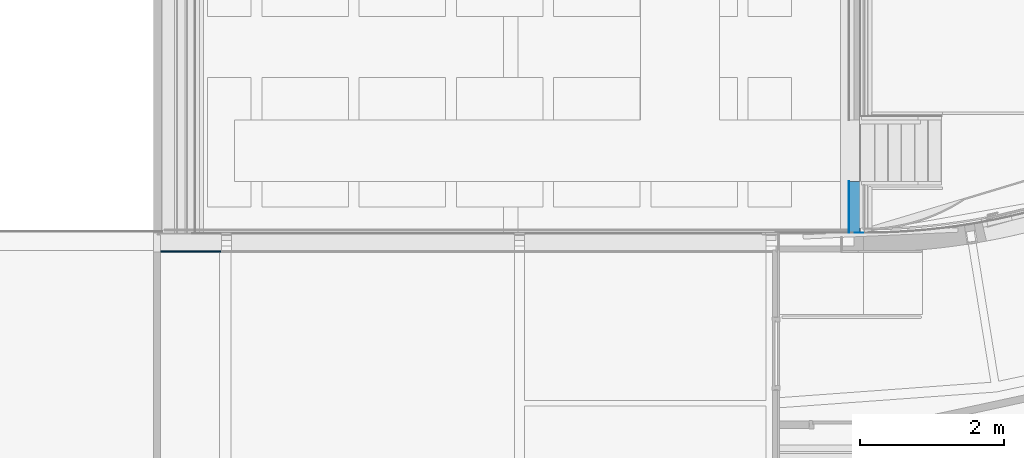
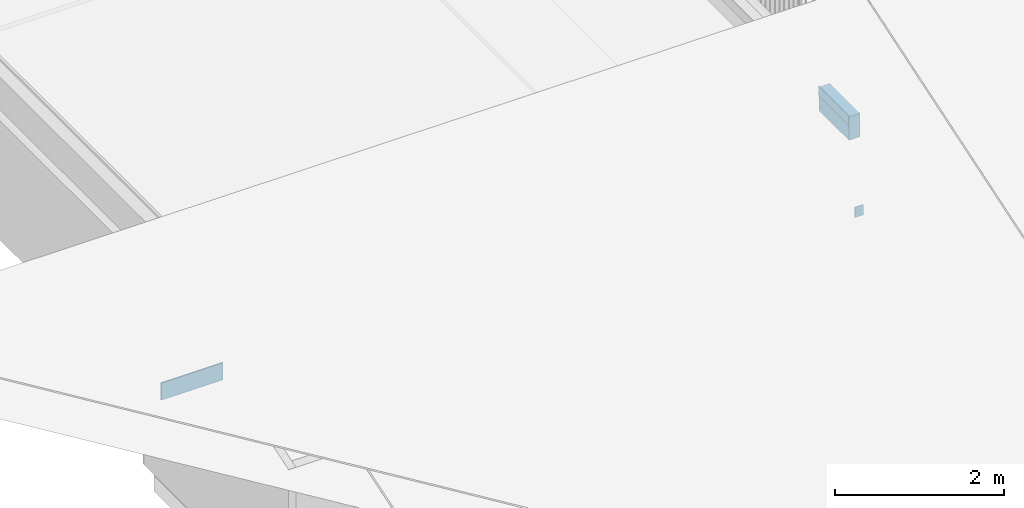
# One storey, part 40 of 66: 4 walls.
"""IFC2X3 building model written with IfcOpenShell, lengths in millimetres."""

from ifc_helpers import new_model, entity, si_unit, converted_unit, derived_unit, direction, frame, frame_2d, origin, place, context, subcontext, project, spatial, rectangle, extrude, material, layer, layer_set, layer_usage, type_object, element, save


model = new_model("IFC2X3")

# Units and contexts
model_context = context("Model", 3, precision=0.01, world=origin(), true_north=direction((6.12303176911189e-17, 1.0)))
body_context = subcontext(model_context, "Body", "Model", "MODEL_VIEW")
ifc_project = project(units=[si_unit("LENGTHUNIT", "METRE", prefix="MILLI"), si_unit("AREAUNIT", "SQUARE_METRE"), si_unit("VOLUMEUNIT", "CUBIC_METRE"), converted_unit("PLANEANGLEUNIT", "DEGREE", entity("IfcRatioMeasure", 0.0174532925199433), si_unit("PLANEANGLEUNIT", "RADIAN"), dimensions=[0, 0, 0, 0, 0, 0, 0]), si_unit("MASSUNIT", "GRAM", prefix="KILO"), derived_unit("MASSDENSITYUNIT", [(si_unit("MASSUNIT", "GRAM", prefix="KILO"), 1), (si_unit("LENGTHUNIT", "METRE"), -3)]), derived_unit("MOMENTOFINERTIAUNIT", [(si_unit("LENGTHUNIT", "METRE"), 4)]), si_unit("TIMEUNIT", "SECOND"), si_unit("FREQUENCYUNIT", "HERTZ"), si_unit("THERMODYNAMICTEMPERATUREUNIT", "DEGREE_CELSIUS"), derived_unit("THERMALTRANSMITTANCEUNIT", [(si_unit("MASSUNIT", "GRAM", prefix="KILO"), 1), (si_unit("THERMODYNAMICTEMPERATUREUNIT", "KELVIN"), -1), (si_unit("TIMEUNIT", "SECOND"), -3)]), derived_unit("VOLUMETRICFLOWRATEUNIT", [(si_unit("LENGTHUNIT", "METRE"), 3), (si_unit("TIMEUNIT", "SECOND"), -1)]), si_unit("ELECTRICCURRENTUNIT", "AMPERE"), si_unit("ELECTRICVOLTAGEUNIT", "VOLT"), si_unit("POWERUNIT", "WATT"), si_unit("FORCEUNIT", "NEWTON", prefix="KILO"), si_unit("ILLUMINANCEUNIT", "LUX"), si_unit("LUMINOUSFLUXUNIT", "LUMEN"), si_unit("LUMINOUSINTENSITYUNIT", "CANDELA"), derived_unit("USERDEFINED", [(si_unit("MASSUNIT", "GRAM", prefix="KILO"), -1), (si_unit("LENGTHUNIT", "METRE"), -2), (si_unit("TIMEUNIT", "SECOND"), 3), (si_unit("LUMINOUSFLUXUNIT", "LUMEN"), 1)]), derived_unit("LINEARVELOCITYUNIT", [(si_unit("LENGTHUNIT", "METRE"), 1), (si_unit("TIMEUNIT", "SECOND"), -1)]), si_unit("PRESSUREUNIT", "PASCAL"), derived_unit("USERDEFINED", [(si_unit("LENGTHUNIT", "METRE"), -2), (si_unit("MASSUNIT", "GRAM", prefix="KILO"), 1), (si_unit("TIMEUNIT", "SECOND"), -2)]), derived_unit("LINEARFORCEUNIT", [(si_unit("MASSUNIT", "GRAM", prefix="KILO"), 1), (si_unit("LENGTHUNIT", "METRE"), 1), (si_unit("TIMEUNIT", "SECOND"), -2), (si_unit("LENGTHUNIT", "METRE"), -1)]), derived_unit("PLANARFORCEUNIT", [(si_unit("MASSUNIT", "GRAM", prefix="KILO"), 1), (si_unit("LENGTHUNIT", "METRE"), 1), (si_unit("TIMEUNIT", "SECOND"), -2), (si_unit("LENGTHUNIT", "METRE"), -2)])], contexts=[model_context])

# Site, building, storey
site_placement = place(None, origin())
site = spatial("IfcSite", under=ifc_project, at=site_placement, Name="Default", CompositionType="ELEMENT")
building_placement = place(site_placement, origin())
building = spatial("IfcBuilding", under=site, at=building_placement, Name="-", CompositionType="ELEMENT")
storey_placement = place(building_placement, frame((0.0, 0.0, 3070.0)))
storey = spatial("IfcBuildingStorey", under=building, at=storey_placement, Name="01 eerste verdieping", CompositionType="ELEMENT", Elevation=3070.00000000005)

# Walls
ifc_material_1 = material(Name="NLRS_i4_hout_underlayment")
ifc_layer_1 = layer(ifc_material_1, 9.0)
ifc_material_2 = material(Name="NLRS_m1_isolatie")
ifc_layer_2 = layer(ifc_material_2, 140.0)
ifc_layer_set_1 = layer_set([ifc_layer_1, ifc_layer_2], Name="Basic Wall:NLRS_21_WA_HSB-wand_149 (conform opgaaf constructeur)")
ifc_layer_usage_1 = layer_usage(ifc_layer_set_1, "AXIS2", "NEGATIVE", 74.5)
wall_type_1 = type_object("IfcWallType", Name="Basic Wall:NLRS_21_WA_HSB-wand_149 (conform opgaaf constructeur)", PredefinedType="STANDARD", material=ifc_layer_set_1)
wall_1_placement = place(storey_placement, frame((50524.6203901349, 10417.6240954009, 1390.0), z_axis=(0.0, 0.0, 1.0), x_axis=(0.0, 1.0, 0.0)))
element("IfcWallStandardCase", 1, at=wall_1_placement, inside=storey, type_object=wall_type_1, material=ifc_layer_usage_1, Name="Basic Wall:NLRS_21_WA_HSB-wand_149 (conform opgaaf constructeur)", ObjectType="Basic Wall:NLRS_21_WA_HSB-wand_149 (conform opgaaf constructeur)", context=body_context, shape_type="SweptSolid", body=[
    extrude(rectangle(XDim=713.372501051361, YDim=149.000000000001, at=frame_2d((356.68625052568, 2.16715534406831e-12), x_axis=(-1.0, 0.0))), origin(), (0.0, 0.0, 1.0), 339.000000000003),
])
ifc_material_3 = material(Name="NLRS_i4_hout_multiplex")
ifc_layer_3 = layer(ifc_material_3, 18.0)
ifc_layer_set_2 = layer_set([ifc_layer_3], Name="Basic Wall:NLRS_41_WA_plaatmateriaal 18mm_gen_aly")
ifc_layer_usage_2 = layer_usage(ifc_layer_set_2, "AXIS2", "POSITIVE", -9.0)
wall_type_2 = type_object("IfcWallType", Name="Basic Wall:NLRS_41_WA_plaatmateriaal 18mm_gen_aly", PredefinedType="STANDARD", material=ifc_layer_set_2)
wall_2_placement = place(storey_placement, frame((40893.066810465, 10156.1240954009, 1142.0)))
element("IfcWallStandardCase", 2, at=wall_2_placement, inside=storey, type_object=wall_type_2, material=ifc_layer_usage_2, Name="Basic Wall:NLRS_41_WA_plaatmateriaal 18mm_gen_aly", ObjectType="Basic Wall:NLRS_41_WA_plaatmateriaal 18mm_gen_aly", context=body_context, shape_type="SweptSolid", body=[
    extrude(rectangle(XDim=844.219106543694, YDim=18.0000000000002, at=frame_2d((422.109553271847, 0.0), x_axis=(-1.0, 0.0))), origin(), (0.0, 0.0, 1.0), 248.000000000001),
])
ifc_material_4 = material(Name="n2_bitumen_dak bedekking")
ifc_layer_4 = layer(ifc_material_4, 6.0)
ifc_layer_set_3 = layer_set([ifc_layer_4], Name="Basic Wall:47.11_2 laagse APP dakbedekking")
ifc_layer_usage_3 = layer_usage(ifc_layer_set_3, "AXIS2", "POSITIVE", -3.0)
wall_type_3 = type_object("IfcWallType", Name="Basic Wall:47.11_2 laagse APP dakbedekking", PredefinedType="STANDARD", material=ifc_layer_set_3)
wall_3_placement = place(storey_placement, frame((50646.5626620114, 10417.624095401, 246.0), z_axis=(0.0, 0.0, 1.0), x_axis=(-1.0, 0.0, 0.0)))
element("IfcWallStandardCase", 3, at=wall_3_placement, inside=storey, type_object=wall_type_3, material=ifc_layer_usage_3, Name="Basic Wall:47.11_2 laagse APP dakbedekking", ObjectType="Basic Wall:47.11_2 laagse APP dakbedekking", context=body_context, shape_type="SweptSolid", body=[
    extrude(rectangle(XDim=117.442271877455, YDim=5.99999999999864, at=frame_2d((58.7211359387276, -2.32036612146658e-13), x_axis=(-1.0, 0.0))), origin(), (0.0, 0.0, 1.0), 150.000000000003),
])
ifc_layer_usage_4 = layer_usage(ifc_layer_set_3, "AXIS2", "NEGATIVE", 3.0)
wall_4_placement = place(storey_placement, frame((50447.1203901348, 10420.6240954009, 1603.41863695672), z_axis=(0.0, 0.0, 1.0), x_axis=(0.0, 1.0, 0.0)))
element("IfcWallStandardCase", 4, at=wall_4_placement, inside=storey, type_object=wall_type_3, material=ifc_layer_usage_4, Name="Basic Wall:47.11_2 laagse APP dakbedekking", ObjectType="Basic Wall:47.11_2 laagse APP dakbedekking", context=body_context, shape_type="SweptSolid", body=[
    extrude(rectangle(XDim=710.372501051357, YDim=5.99999999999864, at=frame_2d((355.186250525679, -1.15107923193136e-12), x_axis=(-1.0, 0.0))), origin(), (0.0, 0.0, 1.0), 146.624574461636),
])

save(model, "model.ifc")
